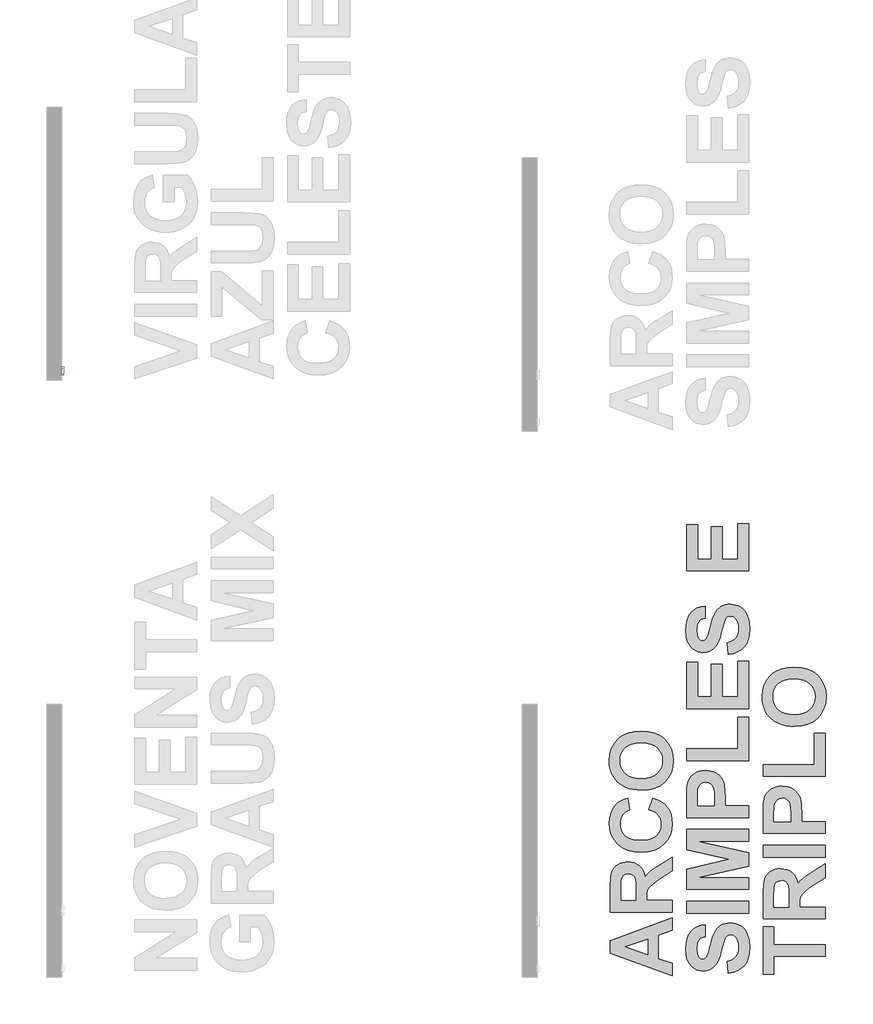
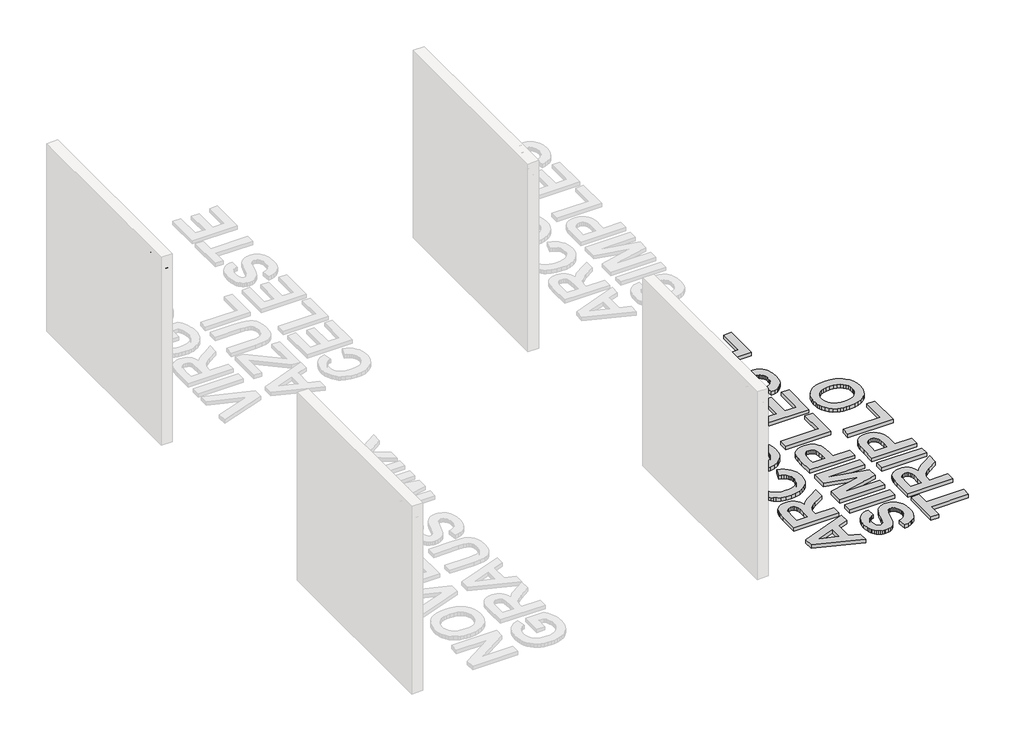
# One storey, part 6 of 12: 3 proxies.
"""IFC4 building model written with IfcOpenShell, lengths in millimetres."""

from ifc_helpers import new_model, si_unit, frame, origin, origin_with_axes, place, context, project, spatial, polyline, outline, extrude, element, save

model = new_model("IFC4")

# Units and contexts
model_context = context("Model", 3, world=origin())
ifc_project = project(units=[si_unit("LENGTHUNIT", "METRE", prefix="MILLI")], contexts=[model_context])

# Site, building, storey
site = spatial("IfcSite", under=ifc_project)
building = spatial("IfcBuilding", under=site)
storey = spatial("IfcBuildingStorey", under=building, Name="PORTOBELLO - SHOWROOM", Elevation=0.0)

# Proxies
placement = place(None, origin())
element("IfcBuildingElementProxy", 1, Name="10mm Arial", ObjectType="10mm Arial", at=placement, inside=storey, context=model_context, shape_type="SweptSolid", body=[
    extrude(outline(polyline([(-3235.2357215, 2548.8308244), (-3275.2122317, 2649.2871345), (-3261.7722761, 2649.2871345), (-3235.0149923, 2576.9124833), (-3229.5948643, 2560.6030482), (-3224.2483126, 2576.9124833), (-3197.4174524, 2649.2871345), (-3183.9774969, 2649.2871345), (-3222.2617498, 2548.8308244), (-3235.2357215, 2548.8308244)])), frame((8602.9163978, 0.0, 0.0), z_axis=(1.0, 0.0, 0.0), x_axis=(0.0, 1.0, 0.0)), (0.0, 0.0, 1.0), 20.0),
    extrude(outline(polyline([(8622.9163978, -3161.315966), (8622.9163978, -3173.8730047), (8602.9163978, -3173.8730047), (8602.9163978, -3161.315966), (8622.9163978, -3161.315966)])), frame((0.0, 0.0, 2548.8308244), z_axis=(0.0, 0.0, 1.0), x_axis=(1.0, 0.0, 0.0)), (0.0, 0.0, 1.0), 73.7726028),
    extrude(outline(polyline([(8622.9163978, -3161.315966), (8622.9163978, -3173.8730047), (8602.9163978, -3173.8730047), (8602.9163978, -3161.315966), (8622.9163978, -3161.315966)])), frame((0.0, 0.0, 2636.7300958), z_axis=(0.0, 0.0, 1.0), x_axis=(1.0, 0.0, 0.0)), (0.0, 0.0, 1.0), 12.5570388),
    extrude(outline(polyline([(-3142.4804078, 2548.8308244), (-3142.4804078, 2622.6034272), (-3131.4929989, 2622.6034272), (-3131.4929989, 2611.6895946), (-3123.6939006, 2621.7450358), (-3115.8457514, 2624.173057), (-3103.2396617, 2620.2980333), (-3107.4335164, 2609.0408443), (-3116.2626843, 2611.6160182), (-3123.3628068, 2609.1389461), (-3127.8877553, 2602.2718156), (-3129.923369, 2587.6055867), (-3129.923369, 2548.8308244), (-3142.4804078, 2548.8308244)])), frame((8602.9163978, 0.0, 0.0), z_axis=(1.0, 0.0, 0.0), x_axis=(0.0, 1.0, 0.0)), (0.0, 0.0, 1.0), 20.0),
    extrude(outline(polyline([(-3098.5307721, 2542.552305), (-3085.9737334, 2540.9826752), (-3081.9025059, 2534.3607992), (-3069.7133492, 2531.5648961), (-3056.8620048, 2534.7286812), (-3050.7306382, 2543.6069001), (-3049.8722469, 2558.2486035), (-3058.7136775, 2551.1852692), (-3069.49262, 2548.8308244), (-3082.4390005, 2551.5715452), (-3092.0928372, 2559.7937078), (-3098.0985108, 2571.8479745), (-3100.100402, 2586.0850078), (-3096.5074212, 2605.5459653), (-3086.1086234, 2619.3170147), (-3070.1057566, 2624.173057), (-3058.9037499, 2621.4262048), (-3049.8722469, 2613.1856481), (-3049.8722469, 2622.6034272), (-3037.3152081, 2622.6034272), (-3037.3152081, 2558.9107911), (-3040.7487734, 2534.5202148), (-3051.6258177, 2523.1771866), (-3069.9586038, 2519.0078573), (-3081.6419229, 2520.4763196), (-3090.8420384, 2524.8817065), (-3096.7434788, 2532.2362807), (-3098.5307721, 2542.552305)]), holes=[polyline([(-3087.5433632, 2586.9433991), (-3086.2036596, 2575.425627), (-3082.1845488, 2567.506967), (-3076.142087, 2562.9176391), (-3068.7323305, 2561.3878632), (-3061.3777563, 2562.9084421), (-3055.3046377, 2567.4701788), (-3051.2303446, 2575.2876712), (-3049.8722469, 2586.5755171), (-3051.2701985, 2597.4617585), (-3055.4640532, 2605.3007106), (-3061.6260766, 2610.0371913), (-3068.9285342, 2611.6160182), (-3076.0991675, 2610.0617168), (-3082.1109724, 2605.3988125), (-3086.1852655, 2597.6763563), (-3087.5433632, 2586.9433991)])]), frame((8602.9163978, 0.0, 0.0), z_axis=(1.0, 0.0, 0.0), x_axis=(0.0, 1.0, 0.0)), (0.0, 0.0, 1.0), 20.0),
    extrude(outline(polyline([(-2971.3907546, 2548.8308244), (-2971.3907546, 2561.5104905), (-2981.2254666, 2550.8235185), (-2994.0522855, 2547.2611945), (-3005.8612975, 2549.7627921), (-3014.0037524, 2556.0413115), (-3017.743886, 2565.2874123), (-3018.47965, 2576.9615343), (-3018.47965, 2622.6034272), (-3005.9226112, 2622.6034272), (-3005.9226112, 2582.8721717), (-3005.1623217, 2570.0698782), (-3000.1959148, 2562.5528228), (-2990.8394494, 2559.8182333), (-2980.3548125, 2562.6141365), (-2973.4263683, 2570.2292938), (-2971.3907546, 2584.2210723), (-2971.3907546, 2622.6034272), (-2958.8337158, 2622.6034272), (-2958.8337158, 2548.8308244), (-2971.3907546, 2548.8308244)])), frame((8602.9163978, 0.0, 0.0), z_axis=(1.0, 0.0, 0.0), x_axis=(0.0, 1.0, 0.0)), (0.0, 0.0, 1.0), 20.0),
    extrude(outline(polyline([(8622.9163978, -2929.0107487), (8622.9163978, -2941.5677875), (8602.9163978, -2941.5677875), (8602.9163978, -2929.0107487), (8622.9163978, -2929.0107487)])), frame((0.0, 0.0, 2548.8308244), z_axis=(0.0, 0.0, 1.0), x_axis=(1.0, 0.0, 0.0)), (0.0, 0.0, 1.0), 100.4563101),
    extrude(outline(polyline([(-2863.0862952, 2558.2486035), (-2875.2631893, 2549.7382666), (-2888.7154075, 2547.2611945), (-2899.2092415, 2548.7511166), (-2906.9500918, 2553.2208829), (-2911.7233607, 2560.0083057), (-2913.3144503, 2568.4511975), (-2910.9109546, 2578.3840113), (-2904.595647, 2585.5944984), (-2895.8032673, 2589.7147768), (-2884.9384857, 2591.6032377), (-2863.1598716, 2595.9197198), (-2863.0862952, 2598.7156229), (-2866.544386, 2607.9862492), (-2880.4257999, 2611.6160182), (-2893.1299915, 2609.2002598), (-2899.1877817, 2600.6286093), (-2911.7448204, 2602.1982392), (-2906.3124296, 2614.4609723), (-2895.3740717, 2621.646934), (-2878.8071191, 2624.173057), (-2863.5890673, 2621.9412396), (-2854.9928913, 2616.3371705), (-2851.1423931, 2607.8145709), (-2850.5292564, 2596.827162), (-2850.5292564, 2581.20444), (-2849.8915943, 2559.3890376), (-2847.3899968, 2548.8308244), (-2859.9470355, 2548.8308244), (-2863.0862952, 2558.2486035)]), holes=[polyline([(-2863.0862952, 2583.362681), (-2883.3443304, 2579.5121828), (-2894.1477983, 2577.4765691), (-2899.0406289, 2574.1656311), (-2900.7574115, 2569.3341142), (-2897.0172779, 2562.5405601), (-2886.0421317, 2559.8182333), (-2873.3379401, 2562.8226029), (-2865.1464344, 2570.0944037), (-2863.1598716, 2579.8064884), (-2863.0862952, 2583.362681)])]), frame((8602.9163978, 0.0, 0.0), z_axis=(1.0, 0.0, 0.0), x_axis=(0.0, 1.0, 0.0)), (0.0, 0.0, 1.0), 20.0),
    extrude(outline(polyline([(-2804.1515996, 2548.8308244), (-2764.0524621, 2649.2871345), (-2753.3593588, 2649.2871345), (-2713.2602213, 2548.8308244), (-2726.5284986, 2548.8308244), (-2738.0309423, 2580.2234213), (-2779.405404, 2580.2234213), (-2790.8833223, 2548.8308244), (-2804.1515996, 2548.8308244)]), holes=[polyline([(-2774.7946164, 2592.7804601), (-2742.6172045, 2592.7804601), (-2751.6671016, 2617.4776047), (-2758.7059104, 2636.7300958), (-2764.9599044, 2619.6358457), (-2774.7946164, 2592.7804601)])]), frame((8602.9163978, 0.0, 0.0), z_axis=(1.0, 0.0, 0.0), x_axis=(0.0, 1.0, 0.0)), (0.0, 0.0, 1.0), 20.0),
    extrude(outline(polyline([(-2709.2625703, 2548.8308244), (-2709.2625703, 2560.6520992), (-2665.9260713, 2610.0463884), (-2678.7528902, 2610.0463884), (-2706.1233106, 2610.0463884), (-2706.1233106, 2622.6034272), (-2648.0470063, 2622.6034272), (-2648.0470063, 2611.9348493), (-2686.4784121, 2568.1078409), (-2692.364524, 2561.3878632), (-2677.8454479, 2561.3878632), (-2646.4773765, 2561.3878632), (-2646.4773765, 2548.8308244), (-2709.2625703, 2548.8308244)])), frame((8602.9163978, 0.0, 0.0), z_axis=(1.0, 0.0, 0.0), x_axis=(0.0, 1.0, 0.0)), (0.0, 0.0, 1.0), 20.0),
    extrude(outline(polyline([(-2586.8314423, 2548.8308244), (-2586.8314423, 2561.5104905), (-2596.6661543, 2550.8235185), (-2609.4929732, 2547.2611945), (-2621.3019852, 2549.7627921), (-2629.4444401, 2556.0413115), (-2633.1845737, 2565.2874123), (-2633.9203377, 2576.9615343), (-2633.9203377, 2622.6034272), (-2621.3632989, 2622.6034272), (-2621.3632989, 2582.8721717), (-2620.6030095, 2570.0698782), (-2615.6366025, 2562.5528228), (-2606.2801371, 2559.8182333), (-2595.7955002, 2562.6141365), (-2588.867056, 2570.2292938), (-2586.8314423, 2584.2210723), (-2586.8314423, 2622.6034272), (-2574.2744035, 2622.6034272), (-2574.2744035, 2548.8308244), (-2586.8314423, 2548.8308244)])), frame((8602.9163978, 0.0, 0.0), z_axis=(1.0, 0.0, 0.0), x_axis=(0.0, 1.0, 0.0)), (0.0, 0.0, 1.0), 20.0),
    extrude(outline(polyline([(8622.9163978, -2544.4514365), (8622.9163978, -2557.0084752), (8602.9163978, -2557.0084752), (8602.9163978, -2544.4514365), (8622.9163978, -2544.4514365)])), frame((0.0, 0.0, 2548.8308244), z_axis=(0.0, 0.0, 1.0), x_axis=(1.0, 0.0, 0.0)), (0.0, 0.0, 1.0), 100.4563101),
    extrude(outline(polyline([(-2414.1721592, 2584.5399034), (-2401.6151205, 2581.3025418), (-2407.4092619, 2566.6700355), (-2416.5020785, 2555.9799978), (-2428.4459806, 2549.4408954), (-2442.7933785, 2547.2611945), (-2457.3584398, 2548.9105322), (-2468.9252628, 2553.858545), (-2477.7912189, 2561.9335548), (-2484.2536793, 2572.9638833), (-2489.5143918, 2599.8192689), (-2488.0275354, 2614.4671037), (-2483.5669663, 2627.116113), (-2476.3656762, 2637.3646922), (-2466.6566572, 2644.8112369), (-2455.1419508, 2649.3453825), (-2442.5235983, 2650.8567644), (-2428.7556147, 2648.9008584), (-2417.3727326, 2643.0331406), (-2408.7305714, 2633.6153615), (-2403.1847503, 2621.0092718), (-2415.7417891, 2618.0171649), (-2426.0424849, 2633.455946), (-2443.0141077, 2638.2997256), (-2462.6590062, 2632.9286485), (-2473.7567797, 2618.5076743), (-2476.9573531, 2599.8437944), (-2473.1681685, 2578.2123331), (-2461.3714192, 2564.3922328), (-2444.0441772, 2559.8182333), (-2433.5626061, 2561.3756004), (-2424.8284744, 2566.0477018), (-2418.2341896, 2573.7854864), (-2414.1721592, 2584.5399034)])), frame((8602.9163978, 0.0, 0.0), z_axis=(1.0, 0.0, 0.0), x_axis=(0.0, 1.0, 0.0)), (0.0, 0.0, 1.0), 20.0),
    extrude(outline(polyline([(-2334.2681899, 2570.8056422), (-2321.9564058, 2569.2360124), (-2326.3924495, 2559.9592547), (-2333.4711122, 2553.0246791), (-2343.0329784, 2548.7020657), (-2354.9186325, 2547.2611945), (-2369.6523064, 2549.7474637), (-2380.9892033, 2557.2062711), (-2388.2180845, 2569.1532389), (-2390.6277115, 2585.1039891), (-2388.193559, 2601.5912339), (-2380.8911014, 2613.9214121), (-2369.7074887, 2621.6101458), (-2355.6298711, 2624.173057), (-2341.9906461, 2621.6162771), (-2331.092142, 2613.9459375), (-2323.9460342, 2601.6402848), (-2321.5639983, 2585.1775655), (-2321.6375747, 2581.7930512), (-2378.0706728, 2581.7930512), (-2375.8971033, 2572.3936662), (-2370.8479229, 2565.483616), (-2363.5607937, 2561.234579), (-2354.6733779, 2559.8182333), (-2342.3615938, 2562.4424582), (-2334.2681899, 2570.8056422)]), holes=[polyline([(-2378.0706728, 2594.3500899), (-2334.1210371, 2594.3500899), (-2339.1487577, 2605.7299063), (-2346.4696094, 2610.1444902), (-2355.678922, 2611.6160182), (-2371.1422285, 2606.9193914), (-2376.0074679, 2601.4287526), (-2378.0706728, 2594.3500899)])]), frame((8602.9163978, 0.0, 0.0), z_axis=(1.0, 0.0, 0.0), x_axis=(0.0, 1.0, 0.0)), (0.0, 0.0, 1.0), 20.0),
    extrude(outline(polyline([(8622.9163978, -2296.4499208), (8622.9163978, -2309.0069595), (8602.9163978, -2309.0069595), (8602.9163978, -2296.4499208), (8622.9163978, -2296.4499208)])), frame((0.0, 0.0, 2548.8308244), z_axis=(0.0, 0.0, 1.0), x_axis=(1.0, 0.0, 0.0)), (0.0, 0.0, 1.0), 100.4563101),
    extrude(outline(polyline([(-2225.9637305, 2570.8056422), (-2213.6519464, 2569.2360124), (-2218.0879901, 2559.9592547), (-2225.1666528, 2553.0246791), (-2234.728519, 2548.7020657), (-2246.6141732, 2547.2611945), (-2261.3478471, 2549.7474637), (-2272.6847439, 2557.2062711), (-2279.9136251, 2569.1532389), (-2282.3232522, 2585.1039891), (-2279.8890996, 2601.5912339), (-2272.586642, 2613.9214121), (-2261.4030294, 2621.6101458), (-2247.3254117, 2624.173057), (-2233.6861867, 2621.6162771), (-2222.7876826, 2613.9459375), (-2215.6415749, 2601.6402848), (-2213.2595389, 2585.1775655), (-2213.3331153, 2581.7930512), (-2269.7662134, 2581.7930512), (-2267.5926439, 2572.3936662), (-2262.5434636, 2565.483616), (-2255.2563344, 2561.234579), (-2246.3689185, 2559.8182333), (-2234.0571344, 2562.4424582), (-2225.9637305, 2570.8056422)]), holes=[polyline([(-2269.7662134, 2594.3500899), (-2225.8165777, 2594.3500899), (-2230.8442983, 2605.7299063), (-2238.16515, 2610.1444902), (-2247.3744626, 2611.6160182), (-2262.8377691, 2606.9193914), (-2267.7030085, 2601.4287526), (-2269.7662134, 2594.3500899)])]), frame((8602.9163978, 0.0, 0.0), z_axis=(1.0, 0.0, 0.0), x_axis=(0.0, 1.0, 0.0)), (0.0, 0.0, 1.0), 20.0),
    extrude(outline(polyline([(-2205.4113897, 2570.8056422), (-2192.8543509, 2572.3752721), (-2187.0418154, 2563.0555949), (-2173.7244872, 2559.8182333), (-2160.9221938, 2562.7858147), (-2156.7528645, 2569.7510472), (-2160.9467192, 2575.3919044), (-2173.87164, 2578.9726225), (-2192.7807745, 2585.1162518), (-2201.033594, 2592.2899507), (-2203.8417599, 2602.4189683), (-2201.585417, 2611.7754338), (-2195.4295249, 2618.9246072), (-2187.4464856, 2622.6402154), (-2176.6430177, 2624.173057), (-2161.3636521, 2621.7082476), (-2151.6515675, 2615.0373208), (-2147.3350854, 2603.767869), (-2159.8921242, 2602.1982392), (-2164.6132764, 2609.1266834), (-2175.661999, 2611.6160182), (-2187.6794775, 2609.237048), (-2191.2847211, 2603.6942926), (-2189.7886676, 2600.0399981), (-2185.1043036, 2597.2686204), (-2174.2885729, 2594.5953446), (-2155.857685, 2588.6847072), (-2147.2982972, 2581.9892549), (-2144.1958257, 2571.0754224), (-2147.8378575, 2559.0579439), (-2158.3470198, 2550.3391406), (-2173.8961654, 2547.2611945), (-2186.5574374, 2548.7449853), (-2195.7974069, 2553.1963574), (-2201.9655617, 2560.56626), (-2205.4113897, 2570.8056422)])), frame((8602.9163978, 0.0, 0.0), z_axis=(1.0, 0.0, 0.0), x_axis=(0.0, 1.0, 0.0)), (0.0, 0.0, 1.0), 20.0),
    extrude(outline(polyline([(-2103.3854497, 2559.3031985), (-2101.8158199, 2548.4629424), (-2111.2090735, 2547.2611945), (-2121.7304985, 2549.3458592), (-2126.9789483, 2554.8150382), (-2128.4995272, 2569.0643341), (-2128.4995272, 2610.0463884), (-2137.9173063, 2610.0463884), (-2137.9173063, 2622.6034272), (-2128.4995272, 2622.6034272), (-2128.4995272, 2640.531543), (-2115.9424885, 2647.9137084), (-2115.9424885, 2622.6034272), (-2103.3854497, 2622.6034272), (-2103.3854497, 2610.0463884), (-2115.9424885, 2610.0463884), (-2115.9424885, 2569.4322161), (-2115.2803009, 2562.957493), (-2113.1343226, 2560.6643619), (-2108.8546287, 2559.8182333), (-2103.3854497, 2559.3031985)])), frame((8602.9163978, 0.0, 0.0), z_axis=(1.0, 0.0, 0.0), x_axis=(0.0, 1.0, 0.0)), (0.0, 0.0, 1.0), 20.0),
    extrude(outline(polyline([(-2039.1777788, 2570.8056422), (-2026.8659947, 2569.2360124), (-2031.3020384, 2559.9592547), (-2038.3807012, 2553.0246791), (-2047.9425673, 2548.7020657), (-2059.8282215, 2547.2611945), (-2074.5618954, 2549.7474637), (-2085.8987922, 2557.2062711), (-2093.1276734, 2569.1532389), (-2095.5373005, 2585.1039891), (-2093.1031479, 2601.5912339), (-2085.8006903, 2613.9214121), (-2074.6170777, 2621.6101458), (-2060.53946, 2624.173057), (-2046.900235, 2621.6162771), (-2036.0017309, 2613.9459375), (-2028.8556232, 2601.6402848), (-2026.4735872, 2585.1775655), (-2026.5471636, 2581.7930512), (-2082.9802617, 2581.7930512), (-2080.8066923, 2572.3936662), (-2075.7575119, 2565.483616), (-2068.4703827, 2561.234579), (-2059.5829668, 2559.8182333), (-2047.2711827, 2562.4424582), (-2039.1777788, 2570.8056422)]), holes=[polyline([(-2082.9802617, 2594.3500899), (-2039.030626, 2594.3500899), (-2044.0583466, 2605.7299063), (-2051.3791983, 2610.1444902), (-2060.5885109, 2611.6160182), (-2076.0518175, 2606.9193914), (-2080.9170568, 2601.4287526), (-2082.9802617, 2594.3500899)])]), frame((8602.9163978, 0.0, 0.0), z_axis=(1.0, 0.0, 0.0), x_axis=(0.0, 1.0, 0.0)), (0.0, 0.0, 1.0), 20.0),
])
element("IfcBuildingElementProxy", 2, Name="10mm Arial Narrow", ObjectType="10mm Arial Narrow", at=placement, inside=storey, context=model_context, shape_type="SweptSolid", body=[
    extrude(outline(polyline([(-3267.7764767, 2398.8308244), (-3267.7764767, 2499.5494281), (-3236.479592, 2499.5494281), (-3220.1838905, 2497.6711074), (-3208.7109044, 2488.1906642), (-3204.4212259, 2471.1715554), (-3206.2075343, 2459.0957299), (-3211.5664595, 2449.4693361), (-3221.3102484, 2443.1680777), (-3236.2511476, 2441.0676582), (-3258.029515, 2441.0676582), (-3258.029515, 2398.8308244), (-3267.7764767, 2398.8308244)]), holes=[polyline([(-3258.029515, 2452.4391135), (-3235.0581601, 2452.4391135), (-3219.1939647, 2456.9699277), (-3214.1681876, 2470.6385184), (-3216.6430021, 2480.8042949), (-3222.6206309, 2486.6042447), (-3235.2866045, 2488.1779729), (-3258.029515, 2488.1779729), (-3258.029515, 2452.4391135)])]), frame((8602.9163978, 0.0, 0.0), z_axis=(1.0, 0.0, 0.0), x_axis=(0.0, 1.0, 0.0)), (0.0, 0.0, 1.0), 20.0),
    extrude(outline(polyline([(-3196.2987579, 2435.3819306), (-3194.344289, 2451.9727061), (-3188.4808824, 2463.9247909), (-3179.6223157, 2471.1493455), (-3168.6823665, 2473.5575304), (-3157.869331, 2471.1493455), (-3148.9853815, 2463.9247909), (-3143.0458268, 2452.1630765), (-3141.0659752, 2436.143412), (-3143.0109255, 2418.9815254), (-3148.8457766, 2406.8390702), (-3157.6948248, 2399.6145156), (-3168.6823665, 2397.2063308), (-3179.5429947, 2399.6208613), (-3188.4174256, 2406.8644529), (-3194.3284248, 2418.8228834), (-3196.2987579, 2435.3819306)]), holes=[polyline([(-3186.5517962, 2435.4073133), (-3185.2477594, 2422.8555619), (-3181.3356488, 2413.9843038), (-3175.494452, 2408.7110453), (-3168.4031567, 2406.9532924), (-3161.6830835, 2408.7269095), (-3155.9910102, 2414.0477606), (-3152.1074552, 2422.9348829), (-3150.8129368, 2435.4073133), (-3152.1169737, 2447.9209906), (-3156.0290843, 2456.7795573), (-3161.870281, 2462.0528159), (-3168.9615764, 2463.8105687), (-3175.7292421, 2462.0432974), (-3181.4117969, 2456.7414833), (-3185.2667964, 2447.873398), (-3186.5517962, 2435.4073133)])]), frame((8602.9163978, 0.0, 0.0), z_axis=(1.0, 0.0, 0.0), x_axis=(0.0, 1.0, 0.0)), (0.0, 0.0, 1.0), 20.0),
    extrude(outline(polyline([(-3069.5882564, 2406.9532924), (-3067.9637628, 2397.2063308), (-3075.3247495, 2397.2063308), (-3083.5995138, 2399.3257873), (-3087.9145749, 2405.1257371), (-3089.0821797, 2419.7715623), (-3089.0821797, 2462.1860751), (-3097.2046478, 2462.1860751), (-3097.2046478, 2465.4350624), (-3098.8291414, 2460.5615815), (-3106.3931897, 2462.1860751), (-3112.4723494, 2459.8635569), (-3116.3432131, 2453.3782738), (-3118.3230647, 2437.9709673), (-3118.3230647, 2398.8308244), (-3128.0700263, 2398.8308244), (-3128.0700263, 2471.9330368), (-3118.3230647, 2471.9330368), (-3118.3230647, 2462.2368406), (-3112.0789174, 2471.3238517), (-3105.6824738, 2473.5575304), (-3097.2046478, 2471.9330368), (-3089.0821797, 2471.9330368), (-3089.0821797, 2488.1779729), (-3079.3352181, 2496.3004409), (-3079.3352181, 2471.9330368), (-3069.5882564, 2471.9330368), (-3069.5882564, 2462.1860751), (-3079.3352181, 2462.1860751), (-3079.3352181, 2417.5378836), (-3078.4722058, 2409.5423291), (-3073.8525521, 2406.9532924), (-3069.5882564, 2406.9532924)])), frame((8602.9163978, 0.0, 0.0), z_axis=(1.0, 0.0, 0.0), x_axis=(0.0, 1.0, 0.0)), (0.0, 0.0, 1.0), 20.0),
    extrude(outline(polyline([(-3063.090282, 2435.3819306), (-3061.1358131, 2451.9727061), (-3055.2724065, 2463.9247909), (-3046.4138398, 2471.1493455), (-3035.4738906, 2473.5575304), (-3024.660855, 2471.1493455), (-3015.7769056, 2463.9247909), (-3009.8373508, 2452.1630765), (-3007.8574993, 2436.143412), (-3009.8024496, 2418.9815254), (-3015.6373007, 2406.8390702), (-3024.4863489, 2399.6145156), (-3035.4738906, 2397.2063308), (-3046.3345188, 2399.6208613), (-3055.2089497, 2406.8644529), (-3061.1199489, 2418.8228834), (-3063.090282, 2435.3819306)]), holes=[polyline([(-3053.3433203, 2435.4073133), (-3052.0392834, 2422.8555619), (-3048.1271729, 2413.9843038), (-3042.2859761, 2408.7110453), (-3035.1946808, 2406.9532924), (-3028.4746076, 2408.7269095), (-3022.7825343, 2414.0477606), (-3018.8989793, 2422.9348829), (-3017.6044609, 2435.4073133), (-3018.9084978, 2447.9209906), (-3022.8206084, 2456.7795573), (-3028.6618051, 2462.0528159), (-3035.7531005, 2463.8105687), (-3042.5207662, 2462.0432974), (-3048.203321, 2456.7414833), (-3052.0583205, 2447.873398), (-3053.3433203, 2435.4073133)])]), frame((8602.9163978, 0.0, 0.0), z_axis=(1.0, 0.0, 0.0), x_axis=(0.0, 1.0, 0.0)), (0.0, 0.0, 1.0), 20.0),
    extrude(outline(polyline([(-2985.1145887, 2398.8308244), (-2994.8615504, 2398.8308244), (-2994.8615504, 2499.5494281), (-2985.1145887, 2499.5494281), (-2985.1145887, 2464.140544), (-2977.715528, 2471.2223208), (-2968.5142947, 2473.5575304), (-2955.632568, 2469.3566915), (-2946.3551865, 2456.6272611), (-2942.8777549, 2435.9403503), (-2944.8100139, 2419.4860068), (-2950.6067909, 2407.2832677), (-2958.9799132, 2399.725565), (-2968.6412082, 2397.2063308), (-2977.9820465, 2399.8207502), (-2985.1145887, 2407.5878602), (-2985.1145887, 2398.8308244)]), holes=[polyline([(-2985.1145887, 2435.9403503), (-2983.0332063, 2418.692797), (-2977.144417, 2409.9611439), (-2968.6919737, 2406.9532924), (-2962.7492461, 2408.7427737), (-2957.5108887, 2414.1112174), (-2952.6247166, 2435.5342269), (-2957.3332098, 2456.9699277), (-2962.5779128, 2462.1004085), (-2968.8950354, 2463.8105687), (-2974.8726642, 2462.0210875), (-2980.1649598, 2456.6526438), (-2985.1145887, 2435.9403503)])]), frame((8602.9163978, 0.0, 0.0), z_axis=(1.0, 0.0, 0.0), x_axis=(0.0, 1.0, 0.0)), (0.0, 0.0, 1.0), 20.0),
    extrude(outline(polyline([(-2890.8939594, 2421.5737349), (-2881.1469978, 2419.9492413), (-2884.8465281, 2410.0626747), (-2890.665515, 2402.9428238), (-2898.3691683, 2398.640454), (-2907.7226979, 2397.2063308), (-2919.3162519, 2399.6208613), (-2928.4603741, 2406.8644529), (-2934.3999289, 2418.6705872), (-2936.3797805, 2434.7727455), (-2934.3904104, 2451.4396692), (-2928.4223001, 2463.6201984), (-2919.4082642, 2471.0731974), (-2908.2811176, 2473.5575304), (-2897.5981684, 2471.1588641), (-2888.8506511, 2463.962865), (-2883.0158, 2452.2233604), (-2881.0708496, 2436.1941774), (-2881.1469978, 2432.9451902), (-2926.6328188, 2432.9451902), (-2920.6298073, 2413.5020323), (-2914.699771, 2408.5904774), (-2907.5957843, 2406.9532924), (-2897.4173166, 2410.608403), (-2890.8939594, 2421.5737349)]), holes=[polyline([(-2925.9728683, 2442.6921518), (-2890.8939594, 2442.6921518), (-2895.1582551, 2456.9572363), (-2900.9835877, 2462.0972356), (-2908.2049694, 2463.8105687), (-2920.4140542, 2458.0994584), (-2925.9728683, 2442.6921518)])]), frame((8602.9163978, 0.0, 0.0), z_axis=(1.0, 0.0, 0.0), x_axis=(0.0, 1.0, 0.0)), (0.0, 0.0, 1.0), 20.0),
    extrude(outline(polyline([(8622.9163978, -2858.4040872), (8622.9163978, -2868.1510489), (8602.9163978, -2868.1510489), (8602.9163978, -2858.4040872), (8622.9163978, -2858.4040872)])), frame((0.0, 0.0, 2398.8308244), z_axis=(0.0, 0.0, 1.0), x_axis=(1.0, 0.0, 0.0)), (0.0, 0.0, 1.0), 100.7186038),
    extrude(outline(polyline([(8622.9163978, -2832.4121895), (8622.9163978, -2842.1591512), (8602.9163978, -2842.1591512), (8602.9163978, -2832.4121895), (8622.9163978, -2832.4121895)])), frame((0.0, 0.0, 2398.8308244), z_axis=(0.0, 0.0, 1.0), x_axis=(1.0, 0.0, 0.0)), (0.0, 0.0, 1.0), 100.7186038),
    extrude(outline(polyline([(-2821.0407342, 2435.3819306), (-2819.0862654, 2451.9727061), (-2813.2228587, 2463.9247909), (-2804.364292, 2471.1493455), (-2793.4243429, 2473.5575304), (-2782.6113073, 2471.1493455), (-2773.7273579, 2463.9247909), (-2767.7878031, 2452.1630765), (-2765.8079515, 2436.143412), (-2767.7529019, 2418.9815254), (-2773.587753, 2406.8390702), (-2782.4368012, 2399.6145156), (-2793.4243429, 2397.2063308), (-2804.2849711, 2399.6208613), (-2813.159402, 2406.8644529), (-2819.0704012, 2418.8228834), (-2821.0407342, 2435.3819306)]), holes=[polyline([(-2811.2937726, 2435.4073133), (-2809.9897357, 2422.8555619), (-2806.0776251, 2413.9843038), (-2800.2364284, 2408.7110453), (-2793.145133, 2406.9532924), (-2786.4250599, 2408.7269095), (-2780.7329866, 2414.0477606), (-2776.8494315, 2422.9348829), (-2775.5549132, 2435.4073133), (-2776.85895, 2447.9209906), (-2780.7710606, 2456.7795573), (-2786.6122574, 2462.0528159), (-2793.7035527, 2463.8105687), (-2800.4712185, 2462.0432974), (-2806.1537733, 2456.7414833), (-2810.0087728, 2447.873398), (-2811.2937726, 2435.4073133)])]), frame((8602.9163978, 0.0, 0.0), z_axis=(1.0, 0.0, 0.0), x_axis=(0.0, 1.0, 0.0)), (0.0, 0.0, 1.0), 20.0),
])
element("IfcBuildingElementProxy", 3, Name="600mm Arial", ObjectType="600mm Arial", at=placement, inside=storey, context=model_context, shape_type="SweptSolid", body=[
    extrude(outline(polyline([(14636.2154342, -8638.3642537), (14636.2154342, -8760.8864763), (14500.1808475, -8808.86296), (14500.1808475, -9040.0913925), (14636.2154342, -9087.4605789), (14636.2154342, -9211.652869), (14024.0597942, -8988.1674766), (14024.0597942, -8863.9751865), (14636.2154342, -8638.3642537)]), holes=[polyline([(14393.2965295, -8846.2117416), (14169.8111371, -8925.0085613), (14393.2965295, -9002.7426109), (14393.2965295, -8846.2117416)])]), origin_with_axes(), (0.0, 0.0, 1.0), 50.0),
    extrude(outline(polyline([(14636.2154342, -8580.0637166), (14024.0597942, -8580.0637166), (14024.0597942, -8322.5696776), (14028.1970068, -8238.6867433), (14033.3685226, -8206.7087468), (14040.6086446, -8181.3730642), (14050.4962032, -8160.4592647), (14063.6100284, -8141.7469178), (14079.9501204, -8125.2360235), (14099.516479, -8110.9265818), (14121.4645816, -8099.3689558), (14144.9499054, -8091.1135086), (14169.9724504, -8086.1602403), (14196.5322166, -8084.5091509), (14229.6394064, -8086.8956394), (14259.7290879, -8094.0551047), (14286.8012612, -8105.987547), (14310.8559262, -8122.6929662), (14331.3142527, -8144.1523843), (14347.5974105, -8170.3468233), (14359.7053997, -8201.276283), (14367.6382201, -8236.9407636), (14392.0060228, -8203.1218974), (14418.6511901, -8175.7555645), (14457.2525223, -8147.4403297), (14517.4888195, -8110.7747575), (14636.2154342, -8035.92537), (14636.2154342, -8172.1117809), (14496.3852397, -8260.7771812), (14442.6963661, -8303.6106162), (14413.4132513, -8330.3886298), (14399.0089193, -8349.708274), (14389.9563945, -8370.1666005), (14385.1739286, -8397.3241749), (14383.5797733, -8436.7415628), (14383.5797733, -8463.4626423), (14636.2154342, -8463.4626423), (14636.2154342, -8580.0637166)]), holes=[polyline([(14276.6954552, -8463.4626423), (14276.6954552, -8367.3578506), (14274.9304975, -8291.502627), (14269.6356245, -8250.6808642), (14260.0327366, -8229.918889), (14245.343734, -8214.2430285), (14225.9671558, -8204.393426), (14202.3015406, -8201.1102252), (14176.0928681, -8205.4372182), (14155.4637393, -8218.4181972), (14140.907583, -8239.2940405), (14132.9178284, -8267.3056267), (14130.9441123, -8362.0439996), (14130.9441123, -8463.4626423), (14276.6954552, -8463.4626423)])]), origin_with_axes(), (0.0, 0.0, 1.0), 50.0),
    extrude(outline(polyline([(14403.0132856, -7569.5210728), (14441.8803104, -7452.9199986), (14487.9827127, -7469.022865), (14527.7559388, -7489.699439), (14561.1999888, -7514.9497204), (14588.3148627, -7544.7737094), (14609.2713627, -7579.0480486), (14624.2402913, -7617.6493808), (14633.2216485, -7660.577706), (14636.2154342, -7707.8330242), (14631.1008526, -7766.2189625), (14615.7571077, -7819.1582035), (14590.1841996, -7866.6507472), (14554.3821282, -7908.6965936), (14509.7078233, -7943.1037791), (14457.5182149, -7967.6803402), (14397.8133028, -7982.4262768), (14330.5930872, -7987.341589), (14259.7101099, -7982.3835762), (14197.215426, -7967.5095378), (14143.1090356, -7942.7194738), (14119.2014504, -7926.6059322), (14097.3909386, -7908.0133842), (14061.0574821, -7865.2226498), (14035.1050132, -7816.1786514), (14019.5335318, -7760.881389), (14014.343038, -7699.3308626), (14018.6225859, -7645.5091427), (14031.4612296, -7597.0012739), (14052.8589691, -7553.8072562), (14082.8158043, -7515.9270895), (14105.2193799, -7496.2183955), (14132.0448386, -7479.1476491), (14163.2921805, -7464.7148501), (14198.9614057, -7452.9199986), (14218.394918, -7569.5210728), (14197.0398792, -7576.8703186), (14178.0665842, -7587.3794079), (14161.4750333, -7601.0483408), (14147.2652262, -7617.8771173), (14135.8736581, -7637.2774181), (14127.7368237, -7658.6609241), (14122.854723, -7682.0276351), (14121.2273561, -7707.3775513), (14124.1831858, -7742.0267068), (14133.0506747, -7773.2503262), (14147.8298229, -7801.0484094), (14168.5206304, -7825.4209566), (14195.8252846, -7845.2482633), (14230.4459731, -7859.4106252), (14272.3826957, -7867.9080423), (14321.6354526, -7870.7405147), (14373.7681269, -7867.9934435), (14417.8161564, -7859.7522299), (14453.7795411, -7846.0168739), (14481.6582811, -7826.7873754), (14502.5151464, -7803.1549718), (14517.4129074, -7776.2109003), (14526.3515639, -7745.9551609), (14529.3311161, -7712.3877537), (14527.4285677, -7687.3984203), (14521.7209223, -7664.2025116), (14512.20818, -7642.8000276), (14498.8903409, -7623.1909684), (14481.4827342, -7605.8023397), (14459.7006894, -7591.0611476), (14433.5442066, -7578.967392), (14403.0132856, -7569.5210728)])), origin_with_axes(), (0.0, 0.0, 1.0), 50.0),
    extrude(outline(polyline([(14333.9332221, -7375.185949), (14289.126071, -7373.4684365), (14248.0765717, -7368.3158988), (14210.7847242, -7359.7283359), (14177.2505285, -7347.7057479), (14133.0127186, -7323.4707916), (14093.5194186, -7291.7584877), (14061.1998174, -7254.6184645), (14038.4831042, -7214.1003503), (14027.9218253, -7184.9311037), (14020.3780546, -7153.5983606), (14015.8517922, -7120.102121), (14014.343038, -7084.4423849), (14019.5762324, -7021.3404038), (14035.2758155, -6964.8807365), (14061.4417874, -6915.063383), (14098.074148, -6871.8883433), (14120.0281813, -6853.2068357), (14144.024726, -6837.0161958), (14198.14535, -6812.107519), (14260.4360199, -6797.162313), (14330.8967358, -6792.1805776), (14400.8782562, -6797.1243569), (14462.7941099, -6811.9556947), (14516.6442968, -6836.6745911), (14540.5447652, -6852.7418737), (14562.4288169, -6871.281046), (14598.9615428, -6914.1714151), (14625.056347, -6963.7420541), (14640.7132296, -7019.992963), (14645.9321904, -7082.9241418), (14640.7369521, -7146.5195519), (14625.1512372, -7203.2449118), (14599.1750457, -7253.1002214), (14562.8083777, -7296.0854807), (14517.3322507, -7330.6919356), (14464.0276824, -7355.4108319), (14402.8946729, -7370.2421698), (14333.9332221, -7375.185949)]), holes=[polyline([(14329.6821413, -7258.5848748), (14378.1046089, -7255.4867098), (14420.2833015, -7246.192215), (14456.2182192, -7230.7013903), (14485.9093619, -7209.0142358), (14509.1574602, -7182.5541043), (14525.7632447, -7152.7443488), (14535.7267154, -7119.5849694), (14539.0478723, -7083.0759661), (14535.750438, -7046.6049188), (14525.8581349, -7013.5594076), (14509.3709631, -6983.9394326), (14486.2889227, -6957.7449936), (14456.6120135, -6936.3235316), (14420.3402356, -6921.0224873), (14377.4735891, -6911.8418608), (14328.0120738, -6908.7816519), (14279.2385125, -6911.7612041), (14237.0693088, -6920.6998607), (14201.5044629, -6935.5976216), (14172.5439748, -6956.454487), (14150.0929541, -6982.2456426), (14134.0565108, -7011.9462743), (14124.4346448, -7045.5563821), (14121.2273561, -7083.0759661), (14124.4726009, -7120.6335061), (14134.2083351, -7154.3574822), (14150.4345588, -7184.2478943), (14173.151272, -7210.3047424), (14202.4059198, -7231.4273003), (14238.2459473, -7246.5148417), (14280.6713544, -7255.5673665), (14329.6821413, -7258.5848748)])]), origin_with_axes(), (0.0, 0.0, 1.0), 50.0),
    extrude(outline(polyline([(15187.6316533, -9182.5026004), (15177.9148971, -9065.9015261), (15205.9834174, -9058.8416954), (15230.0665494, -9048.8972028), (15250.1642932, -9036.0680481), (15266.2766487, -9020.3542315), (15278.6313523, -9001.7083077), (15287.4561407, -8980.0828318), (15292.7510137, -8955.4778037), (15294.5159713, -8927.8932233), (15292.9550276, -8898.9042681), (15288.2721964, -8873.7298988), (15280.4674777, -8852.3701154), (15269.5408715, -8834.824918), (15256.5266809, -8821.1417515), (15242.4592092, -8811.3680612), (15227.3384563, -8805.503847), (15211.1644222, -8803.549109), (15191.3323709, -8806.7943537), (15174.6506743, -8816.5300879), (15160.549991, -8834.3884231), (15148.4609799, -8862.0014704), (15122.4990219, -8963.1164645), (15109.8311806, -9010.0491561), (15095.6640742, -9049.4285879), (15079.9977026, -9081.25476), (15062.8320659, -9105.5276724), (15036.2533217, -9130.7020418), (15006.9227618, -9148.6837341), (14974.8403861, -9159.4727495), (14940.0061947, -9163.069088), (14917.0807231, -9161.4179986), (14894.914373, -9156.4647303), (14873.5071446, -9148.2092831), (14852.8590376, -9136.6516571), (14833.795597, -9121.9816326), (14817.1423674, -9104.3889901), (14802.8993488, -9083.8737294), (14791.0665413, -9060.4358507), (14781.7673019, -9034.2556453), (14775.1249881, -9005.5134046), (14769.8111371, -8940.3428172), (14773.122805, -8886.4309517), (14783.0578086, -8839.6263619), (14799.616148, -8799.929048), (14822.7978232, -8767.3390097), (14851.5021078, -8741.7518681), (14884.6282757, -8723.0632437), (14922.1763267, -8711.2731367), (14964.1462609, -8706.3815471), (14964.1462609, -8822.9826214), (14942.4780844, -8828.2537718), (14924.0836196, -8835.8687101), (14908.9628667, -8845.8274363), (14897.1158256, -8858.1299504), (14888.1819135, -8873.2886594), (14881.8005478, -8891.8159704), (14876.6954552, -8938.9763984), (14882.1231745, -8988.6229495), (14888.9078236, -9008.8914956), (14898.4063323, -9026.1235555), (14914.7274462, -9041.3818992), (14935.7551139, -9046.4680137), (14955.6061431, -9041.8373721), (14972.3447739, -9027.9454472), (14982.0662746, -9011.9801716), (14991.9490887, -8987.6171134), (15012.1986567, -8913.6976498), (15033.2642805, -8834.8059399), (15055.3167623, -8779.5608671), (15082.0188638, -8740.8456667), (15117.0333466, -8711.5435738), (15137.7668546, -8700.7830254), (15160.7967055, -8693.0969195), (15186.1228991, -8688.4852559), (15213.7454355, -8686.9480347), (15239.4417009, -8688.765182), (15264.3029326, -8694.2166238), (15288.3291305, -8703.3023602), (15311.5202947, -8716.0223911), (15332.832633, -8732.0683234), (15351.2223532, -8751.1317641), (15366.6894553, -8773.2127129), (15379.2339394, -8798.3111701), (15388.9317175, -8826.5552373), (15395.8587019, -8858.0730163), (15401.4002894, -8930.9297097), (15397.9889869, -8985.4156609), (15387.7550791, -9033.1833861), (15370.6985661, -9074.2328854), (15346.819448, -9108.5641588), (15316.4023953, -9136.4144316), (15279.7320786, -9158.0209295), (15236.8084979, -9173.3836524), (15187.6316533, -9182.5026004)])), origin_with_axes(), (0.0, 0.0, 1.0), 50.0),
    extrude(outline(polyline([(15391.6835332, -8589.7804728), (14779.5278933, -8589.7804728), (14779.5278933, -8473.1793985), (15391.6835332, -8473.1793985), (15391.6835332, -8589.7804728)])), origin_with_axes(), (0.0, 0.0, 1.0), 50.0),
    extrude(outline(polyline([(15391.6835332, -8356.5783242), (14779.5278933, -8356.5783242), (14779.5278933, -8156.7775251), (15197.0447608, -8060.2172604), (14779.5278933, -7963.6569958), (14779.5278933, -7763.8561966), (15391.6835332, -7763.8561966), (15391.6835332, -7880.4572709), (14909.7931559, -7885.315649), (15391.6835332, -7991.8963185), (15391.6835332, -8128.3863781), (14909.7931559, -8235.1188719), (15391.6835332, -8239.9772499), (15391.6835332, -8356.5783242)])), origin_with_axes(), (0.0, 0.0, 1.0), 50.0),
    extrude(outline(polyline([(15391.6835332, -7647.2551224), (14779.5278933, -7647.2551224), (14779.5278933, -7450.0353366), (14781.805258, -7357.384548), (14788.6373522, -7303.8285208), (14797.4858631, -7278.7063411), (14810.3672074, -7255.7191908), (14827.281385, -7234.86707), (14848.228396, -7216.1499786), (14872.8571467, -7200.706599), (14900.8165433, -7189.6756136), (14932.1065858, -7183.0570223), (14966.7272742, -7180.8508252), (15018.2906074, -7186.03183), (15040.7273945, -7192.508086), (15060.934262, -7201.5748443), (15095.0188208, -7225.1076132), (15120.9048666, -7254.2578818), (15139.0288943, -7286.4636147), (15149.8273987, -7319.1627766), (15156.3178882, -7374.0093106), (15158.4813847, -7448.9725664), (15158.4813847, -7530.6540481), (15391.6835332, -7530.6540481), (15391.6835332, -7647.2551224)]), holes=[polyline([(14886.4122114, -7530.6540481), (15051.5970666, -7530.6540481), (15051.5970666, -7458.2338496), (15049.3197019, -7393.0063281), (15042.4876077, -7353.7028084), (15030.7781573, -7330.2079956), (15013.8687242, -7312.4065946), (14992.7841224, -7301.1905733), (14968.549166, -7297.4518995), (14939.5886779, -7302.7088164), (14916.1697772, -7318.4795672), (14899.3931903, -7342.2590506), (14890.3596436, -7371.5421655), (14886.4122114, -7466.7360113), (14886.4122114, -7530.6540481)])]), origin_with_axes(), (0.0, 0.0, 1.0), 50.0),
    extrude(outline(polyline([(15391.6835332, -7083.6832633), (14779.5278933, -7083.6832633), (14779.5278933, -6967.0821891), (15284.7992152, -6967.0821891), (15284.7992152, -6656.145991), (15391.6835332, -6656.145991), (15391.6835332, -7083.6832633)])), origin_with_axes(), (0.0, 0.0, 1.0), 50.0),
    extrude(outline(polyline([(15391.6835332, -6568.6951853), (14779.5278933, -6568.6951853), (14779.5278933, -6112.0076443), (14886.4122114, -6112.0076443), (14886.4122114, -6452.094111), (15022.446798, -6452.094111), (15022.446798, -6131.4411567), (15129.3311161, -6131.4411567), (15129.3311161, -6452.094111), (15284.7992152, -6452.094111), (15284.7992152, -6102.2908881), (15391.6835332, -6102.2908881), (15391.6835332, -6568.6951853)])), origin_with_axes(), (0.0, 0.0, 1.0), 50.0),
    extrude(outline(polyline([(15187.6316533, -6034.2735948), (15177.9148971, -5917.6725205), (15205.9834174, -5910.6126899), (15230.0665494, -5900.6681972), (15250.1642932, -5887.8390425), (15266.2766487, -5872.1252259), (15278.6313523, -5853.4793021), (15287.4561407, -5831.8538262), (15292.7510137, -5807.2487981), (15294.5159713, -5779.6642178), (15292.9550276, -5750.6752625), (15288.2721964, -5725.5008932), (15280.4674777, -5704.1411098), (15269.5408715, -5686.5959124), (15256.5266809, -5672.9127459), (15242.4592092, -5663.1390556), (15227.3384563, -5657.2748415), (15211.1644222, -5655.3201034), (15191.3323709, -5658.5653481), (15174.6506743, -5668.3010824), (15160.549991, -5686.1594175), (15148.4609799, -5713.7724648), (15122.4990219, -5814.887459), (15109.8311806, -5861.8201505), (15095.6640742, -5901.1995823), (15079.9977026, -5933.0257544), (15062.8320659, -5957.2986669), (15036.2533217, -5982.4730362), (15006.9227618, -6000.4547285), (14974.8403861, -6011.243744), (14940.0061947, -6014.8400824), (14917.0807231, -6013.188993), (14894.914373, -6008.2357247), (14873.5071446, -5999.9802775), (14852.8590376, -5988.4226515), (14833.795597, -5973.752627), (14817.1423674, -5956.1599845), (14802.8993488, -5935.6447239), (14791.0665413, -5912.2068452), (14781.7673019, -5886.0266398), (14775.1249881, -5857.284399), (14769.8111371, -5792.1138116), (14773.122805, -5738.2019461), (14783.0578086, -5691.3973564), (14799.616148, -5651.7000424), (14822.7978232, -5619.1100042), (14851.5021078, -5593.5228625), (14884.6282757, -5574.8342382), (14922.1763267, -5563.0441312), (14964.1462609, -5558.1525415), (14964.1462609, -5674.7536158), (14942.4780844, -5680.0247662), (14924.0836196, -5687.6397045), (14908.9628667, -5697.5984307), (14897.1158256, -5709.9009448), (14888.1819135, -5725.0596538), (14881.8005478, -5743.5869648), (14876.6954552, -5790.7473928), (14882.1231745, -5840.3939439), (14888.9078236, -5860.6624901), (14898.4063323, -5877.8945499), (14914.7274462, -5893.1528936), (14935.7551139, -5898.2390081), (14955.6061431, -5893.6083665), (14972.3447739, -5879.7164417), (14982.0662746, -5863.751166), (14991.9490887, -5839.3881079), (15012.1986567, -5765.4686443), (15033.2642805, -5686.5769343), (15055.3167623, -5631.3318615), (15082.0188638, -5592.6166611), (15117.0333466, -5563.3145682), (15137.7668546, -5552.5540199), (15160.7967055, -5544.8679139), (15186.1228991, -5540.2562503), (15213.7454355, -5538.7190291), (15239.4417009, -5540.5361764), (15264.3029326, -5545.9876182), (15288.3291305, -5555.0733546), (15311.5202947, -5567.7933855), (15332.832633, -5583.8393179), (15351.2223532, -5602.9027585), (15366.6894553, -5624.9837074), (15379.2339394, -5650.0821645), (15388.9317175, -5678.3262317), (15395.8587019, -5709.8440107), (15401.4002894, -5782.7007041), (15397.9889869, -5837.1866553), (15387.7550791, -5884.9543805), (15370.6985661, -5926.0038798), (15346.819448, -5960.3351532), (15316.4023953, -5988.185426), (15279.7320786, -6009.7919239), (15236.8084979, -6025.1546469), (15187.6316533, -6034.2735948)])), origin_with_axes(), (0.0, 0.0, 1.0), 50.0),
    extrude(outline(polyline([(15391.6835332, -5208.3493186), (14779.5278933, -5208.3493186), (14779.5278933, -4751.6617777), (14886.4122114, -4751.6617777), (14886.4122114, -5091.7482444), (15022.446798, -5091.7482444), (15022.446798, -4771.0952901), (15129.3311161, -4771.0952901), (15129.3311161, -5091.7482444), (15284.7992152, -5091.7482444), (15284.7992152, -4741.9450215), (15391.6835332, -4741.9450215), (15391.6835332, -5208.3493186)])), origin_with_axes(), (0.0, 0.0, 1.0), 50.0),
    extrude(outline(polyline([(16147.1516323, -9017.3177452), (15641.8803104, -9017.3177452), (15641.8803104, -9192.2193566), (15534.9959923, -9192.2193566), (15534.9959923, -8725.8150595), (15641.8803104, -8725.8150595), (15641.8803104, -8900.7166709), (16147.1516323, -8900.7166709), (16147.1516323, -9017.3177452)])), origin_with_axes(), (0.0, 0.0, 1.0), 50.0),
    extrude(outline(polyline([(16147.1516323, -8648.0810099), (15534.9959923, -8648.0810099), (15534.9959923, -8390.5869709), (15539.1332049, -8306.7040366), (15544.3047207, -8274.7260402), (15551.5448427, -8249.3903575), (15561.4324012, -8228.4765581), (15574.5462265, -8209.7642112), (15590.8863184, -8193.2533169), (15610.4526771, -8178.9438751), (15632.4007797, -8167.3862491), (15655.8861035, -8159.130802), (15680.9086485, -8154.1775337), (15707.4684147, -8152.5264442), (15740.5756045, -8154.9129327), (15770.665286, -8162.0723981), (15797.7374593, -8174.0048404), (15821.7921242, -8190.7102596), (15842.2504507, -8212.1696777), (15858.5336086, -8238.3641166), (15870.6415977, -8269.2935764), (15878.5744182, -8304.958057), (15902.9422209, -8271.1391907), (15929.5873882, -8243.7728578), (15968.1887204, -8215.457623), (16028.4250176, -8178.7920508), (16147.1516323, -8103.9426633), (16147.1516323, -8240.1290743), (16007.3214377, -8328.7944745), (15953.6325642, -8371.6279095), (15924.3494493, -8398.4059231), (15909.9451174, -8417.7255673), (15900.8925926, -8438.1838938), (15896.1101267, -8465.3414682), (15894.5159713, -8504.7588561), (15894.5159713, -8531.4799357), (16147.1516323, -8531.4799357), (16147.1516323, -8648.0810099)]), holes=[polyline([(15787.6316533, -8531.4799357), (15787.6316533, -8435.375144), (15785.8666956, -8359.5199203), (15780.5718226, -8318.6981575), (15770.9689346, -8297.9361824), (15756.2799321, -8282.2603218), (15736.9033539, -8272.4107193), (15713.2377387, -8269.1275185), (15687.0290662, -8273.4545115), (15666.3999374, -8286.4354905), (15651.8437811, -8307.3113339), (15643.8540265, -8335.3229201), (15641.8803104, -8430.0612929), (15641.8803104, -8531.4799357), (15787.6316533, -8531.4799357)])]), origin_with_axes(), (0.0, 0.0, 1.0), 50.0),
    extrude(outline(polyline([(16147.1516323, -8035.92537), (15534.9959923, -8035.92537), (15534.9959923, -7919.3242957), (16147.1516323, -7919.3242957), (16147.1516323, -8035.92537)])), origin_with_axes(), (0.0, 0.0, 1.0), 50.0),
    extrude(outline(polyline([(16147.1516323, -7802.7232214), (15534.9959923, -7802.7232214), (15534.9959923, -7605.5034356), (15537.273357, -7512.8526471), (15544.1054512, -7459.2966198), (15552.9539621, -7434.1744401), (15565.8353064, -7411.1872898), (15582.749484, -7390.335169), (15603.6964951, -7371.6180776), (15628.3252457, -7356.174698), (15656.2846423, -7345.1437126), (15687.5746849, -7338.5251214), (15722.1953733, -7336.3189243), (15773.7587064, -7341.499929), (15796.1954936, -7347.976185), (15816.402361, -7357.0429433), (15850.4869199, -7380.5757122), (15876.3729656, -7409.7259808), (15894.4969933, -7441.9317137), (15905.2954977, -7474.6308757), (15911.7859872, -7529.4774096), (15913.9494837, -7604.4406654), (15913.9494837, -7686.1221471), (16147.1516323, -7686.1221471), (16147.1516323, -7802.7232214)]), holes=[polyline([(15641.8803104, -7686.1221471), (15807.0651656, -7686.1221471), (15807.0651656, -7613.7019486), (15804.7878009, -7548.4744271), (15797.9557067, -7509.1709074), (15786.2462564, -7485.6760946), (15769.3368232, -7467.8746936), (15748.2522214, -7456.6586723), (15724.0172651, -7452.9199986), (15695.0567769, -7458.1769155), (15671.6378762, -7473.9476662), (15654.8612894, -7497.7271497), (15645.8277426, -7527.0102645), (15641.8803104, -7622.2041103), (15641.8803104, -7686.1221471)])]), origin_with_axes(), (0.0, 0.0, 1.0), 50.0),
    extrude(outline(polyline([(16147.1516323, -7239.1513624), (15534.9959923, -7239.1513624), (15534.9959923, -7122.5502881), (16040.2673142, -7122.5502881), (16040.2673142, -6811.61409), (16147.1516323, -6811.61409), (16147.1516323, -7239.1513624)])), origin_with_axes(), (0.0, 0.0, 1.0), 50.0),
    extrude(outline(polyline([(15844.8694202, -6743.5967967), (15800.0622691, -6741.8792841), (15759.0127698, -6736.7267464), (15721.7209223, -6728.1391836), (15688.1867266, -6716.1165956), (15643.9489167, -6691.8816392), (15604.4556166, -6660.1693353), (15572.1360155, -6623.0293122), (15549.4193023, -6582.511198), (15538.8580233, -6553.3419514), (15531.3142527, -6522.0092083), (15526.7879903, -6488.5129687), (15525.2792361, -6452.8532326), (15530.5124305, -6389.7512514), (15546.2120136, -6333.2915841), (15572.3779855, -6283.4742306), (15609.0103461, -6240.2991909), (15630.9643793, -6221.6176833), (15654.9609241, -6205.4270434), (15709.081548, -6180.5183667), (15771.372218, -6165.5731606), (15841.8329339, -6160.5914253), (15911.8144543, -6165.5352045), (15973.7303079, -6180.3665424), (16027.5804948, -6205.0854387), (16051.4809632, -6221.1527214), (16073.365015, -6239.6918936), (16109.8977409, -6282.5822628), (16135.9925451, -6332.1529018), (16151.6494276, -6388.4038106), (16156.8683885, -6451.3349894), (16151.6731502, -6514.9303995), (16136.0874353, -6571.6557594), (16110.1112438, -6621.511069), (16073.7445758, -6664.4963283), (16028.2684488, -6699.1027832), (15974.9638805, -6723.8216796), (15913.830871, -6738.6530174), (15844.8694202, -6743.5967967)]), holes=[polyline([(15840.6183394, -6626.9957224), (15889.040807, -6623.8975575), (15931.2194996, -6614.6030626), (15967.1544173, -6599.112238), (15996.84556, -6577.4250834), (16020.0936583, -6550.9649519), (16036.6994428, -6521.1551965), (16046.6629135, -6487.9958171), (16049.9840704, -6451.4868137), (16046.686636, -6415.0157664), (16036.794333, -6381.9702553), (16020.3071612, -6352.3502802), (15997.2251208, -6326.1558413), (15967.5482116, -6304.7343793), (15931.2764337, -6289.433335), (15888.4097872, -6280.2527084), (15838.9482719, -6277.1924996), (15790.1747105, -6280.1720517), (15748.0055069, -6289.1107083), (15712.440661, -6304.0084693), (15683.4801728, -6324.8653346), (15661.0291522, -6350.6564902), (15644.9927089, -6380.3571219), (15635.3708429, -6413.9672298), (15632.1635542, -6451.4868137), (15635.408799, -6489.0443538), (15645.1445332, -6522.7683298), (15661.3707569, -6552.6587419), (15684.0874701, -6578.7155901), (15713.3421179, -6599.838148), (15749.1821454, -6614.9256893), (15791.6075525, -6623.9782141), (15840.6183394, -6626.9957224)])]), origin_with_axes(), (0.0, 0.0, 1.0), 50.0),
])

save(model, "model.ifc")
